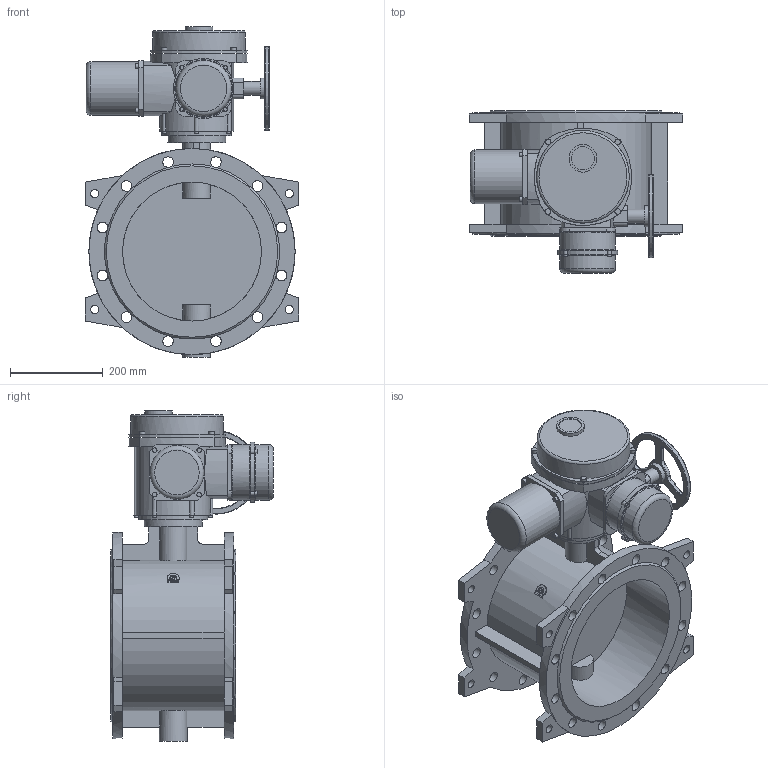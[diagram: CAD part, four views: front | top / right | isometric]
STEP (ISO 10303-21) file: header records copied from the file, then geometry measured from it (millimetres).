
FILE_DESCRIPTION(('STEP AP203'), '1');
FILE_NAME('青蜮铕 023F.Z DN300 PN10_菹_QT.Z060-120', '', ('UNSPECIFIED'), ('UNSPECIFIED'), 'ASCON STEP Converter 1.6', 'ASCON Math Kernel', '');
FILE_SCHEMA(('CONFIG_CONTROL_DESIGN'));
Length unit declared in the file: millimetre
Bounding box: 460 x 351 x 713 mm (x, y, z)
Volume: 19337439.7 mm3; surface area: 1577286.9 mm2
Topology: 1 solids, 1 shells, 391 faces, 1055 edges, 666 vertices
Faces by surface type: cylinder 175, plane 143, torus 47, cone 18, bspline 8
Full cylindrical faces by diameter (mm): 8 x10, 8.376 x4, 10 x4, 10.106 x4, 12 x8, 12.386 x1, 18 x8, 23 x24, 30 x1, 45 x1, 50 x1, 60 x2, 116 x1, 120 x2, 125 x1, 150 x1, 180 x1, 200 x1, 300 x2, 445 x2
Entity records: 19048 total; most frequent: CARTESIAN_POINT 6189, DIRECTION 2133, ORIENTED_EDGE 1866, EDGE_CURVE 933, AXIS2_PLACEMENT_3D 897, VERTEX_POINT 657, EDGE_LOOP 577, CIRCLE 513
